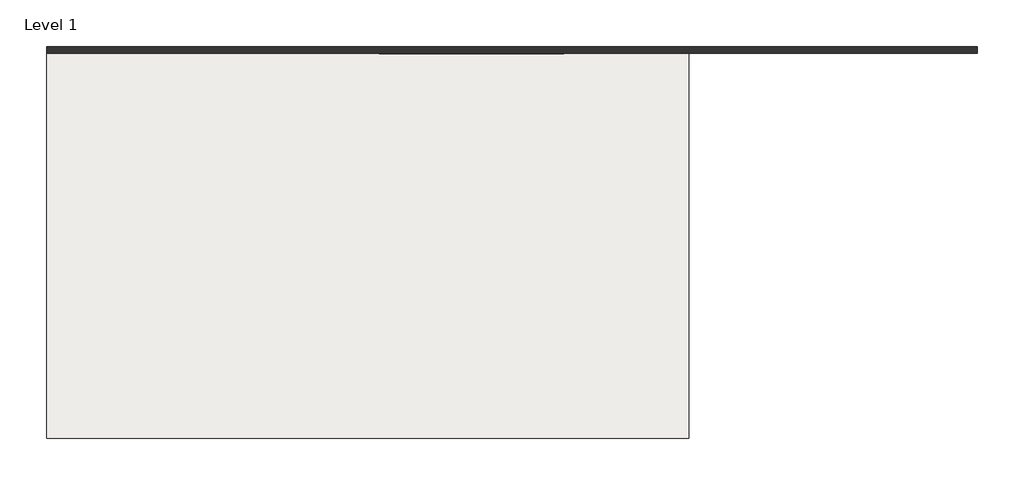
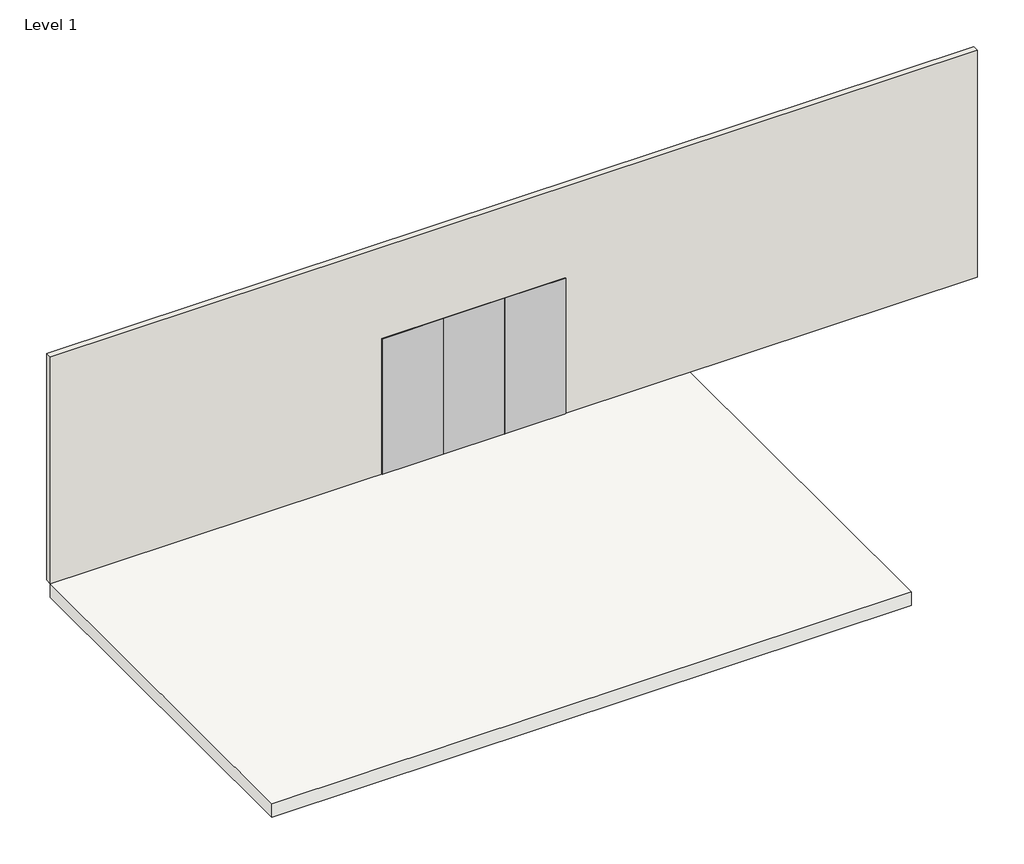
# One storey: 3 proxies, 1 slab, 1 wall.
"""IFC4 building model written with IfcOpenShell, lengths in millimetres."""

import ifcopenshell
import ifcopenshell.guid

model = None  # the IFC model being written
_history = None  # IfcOwnerHistory: only IFC2X3 demands one
_inside = {}  # id of a spatial element -> (the spatial element, [elements in it])
_under = {}  # id of a project, library or spatial element -> (it, [spatial elements below it])
_declared = {}  # id of a project -> (the project, [libraries it declares])
_typed = {}  # id of a type object -> (the type object, [elements of that type])
_made_of = {}  # id of a material, layer set ... -> (it, [elements and type objects made of it])


def new_model(schema):
    """Start an empty IFC model of exactly this schema.

    Asked for "IFC4X3", IfcOpenShell would pick the latest addendum, in which some entities
    have other attributes; the version numbers below select the first issue.
    IFC2X3 requires an IfcOwnerHistory on every rooted entity: one is made here for all.
    """
    global model, _history
    if schema == "IFC4X3":
        model = ifcopenshell.file(schema_version=(4, 3, 0, 0))
    else:
        model = ifcopenshell.file(schema=schema)
    _inside.clear()
    _under.clear()
    _declared.clear()
    _typed.clear()
    _made_of.clear()
    _history = None
    if model.schema == "IFC2X3":
        org = make("IfcOrganization", Name="unknown")
        user = make(
            "IfcPersonAndOrganization",
            ThePerson=make("IfcPerson", FamilyName="unknown"),
            TheOrganization=org,
        )
        app = make(
            "IfcApplication",
            ApplicationDeveloper=org,
            Version="unknown",
            ApplicationFullName="unknown",
            ApplicationIdentifier="unknown",
        )
        _history = make(
            "IfcOwnerHistory",
            OwningUser=user,
            OwningApplication=app,
            ChangeAction="ADDED",
            CreationDate=0,
        )
    return model


def make(cls, **values):
    """One entity of the class cls with the attributes given. An attribute that is None is left unset."""
    return model.create_entity(
        cls, **{name: value for name, value in values.items() if value is not None}
    )


def rooted(cls, **values):
    """An entity with a GlobalId (a new one), such as an element, a storey or a relation."""
    return make(cls, GlobalId=ifcopenshell.guid.new(), OwnerHistory=_history, **values)


def si_unit(unit_type, name, prefix=None):
    """IfcSIUnit, for example si_unit("LENGTHUNIT", "METRE", prefix="MILLI")."""
    return make("IfcSIUnit", UnitType=unit_type, Prefix=prefix, Name=name)


def assignment(units):
    """IfcUnitAssignment: the units of a project."""
    return None if units is None else make("IfcUnitAssignment", Units=units)


def point(xyz):
    """IfcCartesianPoint."""
    return None if xyz is None else make("IfcCartesianPoint", Coordinates=xyz)


def direction(xyz):
    """IfcDirection."""
    return None if xyz is None else make("IfcDirection", DirectionRatios=xyz)


def frame(location, z_axis=None, x_axis=None):
    """IfcAxis2Placement3D, a coordinate frame: its origin and axes. An axis left out is left unset."""
    return make(
        "IfcAxis2Placement3D",
        Location=point(location),
        Axis=direction(z_axis),
        RefDirection=direction(x_axis),
    )


def origin():
    """The frame at (0, 0, 0) with its axes left unset."""
    return frame((0.0, 0.0, 0.0))


def origin_with_axes():
    """The frame at (0, 0, 0) with the z axis (0, 0, 1) and the x axis (1, 0, 0) written out."""
    return frame((0.0, 0.0, 0.0), z_axis=(0.0, 0.0, 1.0), x_axis=(1.0, 0.0, 0.0))


def place(relative_to, where):
    """IfcLocalPlacement: puts the frame where relative to a parent placement (None: the world)."""
    return make(
        "IfcLocalPlacement", PlacementRelTo=relative_to, RelativePlacement=where
    )


def context(
    kind, dimensions, precision=None, world=None, true_north=None, identifier=None
):
    """IfcGeometricRepresentationContext, for example the 3D "Model" context."""
    return make(
        "IfcGeometricRepresentationContext",
        ContextIdentifier=identifier,
        ContextType=kind,
        CoordinateSpaceDimension=dimensions,
        Precision=precision,
        WorldCoordinateSystem=world,
        TrueNorth=true_north,
    )


def project(units=None, contexts=None):
    """IfcProject with its units and contexts."""
    return rooted(
        "IfcProject",
        Name="project",
        RepresentationContexts=contexts,
        UnitsInContext=assignment(units),
    )


def spatial(cls, under=None, at=None, **own):
    """A site, building, storey or space (cls), placed at a placement, below another one or the project."""
    s = rooted(cls, ObjectPlacement=at, **own)
    if under is not None:
        _under.setdefault(under.id(), (under, []))[1].append(s)
    return s


def polyline(points):
    """IfcPolyline through the points."""
    return make("IfcPolyline", Points=[point(p) for p in points])


def outline(outer, holes=None, kind="AREA"):
    """IfcArbitraryClosedProfileDef: a profile drawn as a closed curve; with holes, ...WithVoids."""
    if holes is None:
        return make("IfcArbitraryClosedProfileDef", ProfileType=kind, OuterCurve=outer)
    return make(
        "IfcArbitraryProfileDefWithVoids",
        ProfileType=kind,
        OuterCurve=outer,
        InnerCurves=holes,
    )


def extrude(swept, where, along, depth):
    """IfcExtrudedAreaSolid: the profile swept, set in the frame where, extruded along a direction by depth."""
    return make(
        "IfcExtrudedAreaSolid",
        SweptArea=swept,
        Position=where,
        ExtrudedDirection=direction(along),
        Depth=depth,
    )


def shape(context_of_items, identifier, shape_type, items):
    """IfcShapeRepresentation: the items that make up one representation, for example the "Body"."""
    return make(
        "IfcShapeRepresentation",
        ContextOfItems=context_of_items,
        RepresentationIdentifier=identifier,
        RepresentationType=shape_type,
        Items=items,
    )


def source(mapping_origin, context_of_items, identifier, shape_type, items):
    """IfcRepresentationMap: a shape defined once, which mapped items show again and again."""
    return make(
        "IfcRepresentationMap",
        MappingOrigin=mapping_origin,
        MappedRepresentation=shape(context_of_items, identifier, shape_type, items),
    )


def transform(
    local_origin,
    x_axis=None,
    y_axis=None,
    z_axis=None,
    scale=None,
    scale2=None,
    scale3=None,
    uniform=True,
):
    """IfcCartesianTransformationOperator3D, or its non-uniform kind. x_axis, y_axis, z_axis: its Axis1, 2, 3."""
    if uniform:
        return make(
            "IfcCartesianTransformationOperator3D",
            Axis1=direction(x_axis),
            Axis2=direction(y_axis),
            LocalOrigin=point(local_origin),
            Scale=scale,
            Axis3=direction(z_axis),
        )
    return make(
        "IfcCartesianTransformationOperator3DnonUniform",
        Axis1=direction(x_axis),
        Axis2=direction(y_axis),
        LocalOrigin=point(local_origin),
        Scale=scale,
        Axis3=direction(z_axis),
        Scale2=scale2,
        Scale3=scale3,
    )


def mapped(mapping_source, mapping_target):
    """IfcMappedItem: shows the shape of a source again, moved by a transform."""
    return make(
        "IfcMappedItem", MappingSource=mapping_source, MappingTarget=mapping_target
    )


def made_of(thing, what):
    """Note that an element or type object is made of a material, layer set ...; save() writes the relation."""
    if what is not None:
        _made_of.setdefault(what.id(), (what, []))[1].append(thing)
    return thing


def element(
    cls,
    number,
    at=None,
    inside=None,
    cuts=None,
    type_object=None,
    material=None,
    context=None,
    identifier="Body",
    shape_type=None,
    held_by="IfcProductDefinitionShape",
    body=None,
    shapes=None,
    **own,
):
    """One element of the class cls, such as IfcWall. Its Tag is "e" and its number.

    at: its placement. inside: the storey or other place that contains it. cuts: it is an
    opening in that element (IfcRelVoidsElement). A single representation is given by context,
    identifier, shape_type and body (its items); several are given by shapes. held_by: the class
    of the entity that holds the representations. save() writes the other relations.
    """
    e = rooted(cls, Tag="e%d" % number, ObjectPlacement=at, **own)
    if body is not None:
        shapes = [shape(context, identifier, shape_type, body)]
    if shapes is not None:
        e.Representation = make(held_by, Representations=shapes)
    if inside is not None:
        _inside.setdefault(inside.id(), (inside, []))[1].append(e)
    if cuts is not None:
        rooted(
            "IfcRelVoidsElement", RelatingBuildingElement=cuts, RelatedOpeningElement=e
        )
    if type_object is not None:
        _typed.setdefault(type_object.id(), (type_object, []))[1].append(e)
    return made_of(e, material)


def aggregate(whole, parts):
    """IfcRelAggregates: a whole, such as a stair, and the parts it consists of."""
    return rooted("IfcRelAggregates", RelatingObject=whole, RelatedObjects=parts)


def save(model, path):
    """Write the relations noted so far, then the file.

    IfcRelAggregates (storeys below a building ...), IfcRelContainedInSpatialStructure (elements
    in a storey), IfcRelDefinesByType, IfcRelAssociatesMaterial and IfcRelDeclares: one each for
    every whole, place, type object, material and project.
    """
    for whole, parts in _under.values():
        aggregate(whole, parts)
    for where, things in _inside.values():
        rooted(
            "IfcRelContainedInSpatialStructure",
            RelatedElements=things,
            RelatingStructure=where,
        )
    for kind, things in _typed.values():
        rooted("IfcRelDefinesByType", RelatedObjects=things, RelatingType=kind)
    for what, things in _made_of.values():
        rooted("IfcRelAssociatesMaterial", RelatedObjects=things, RelatingMaterial=what)
    for by, libraries in _declared.values():
        rooted("IfcRelDeclares", RelatingContext=by, RelatedDefinitions=libraries)
    model.write(path)


def specialty_equipment_f73d159b(model_context):
    return source(origin(), model_context, "Body", "SweptSolid", [
        extrude(outline(polyline([(558.8, 1371.6), (558.8, -1371.6), (-609.6, -1371.6), (-609.6, 1371.6), (558.8, 1371.6)])), origin_with_axes(), (0.0, 0.0, 1.0), 12.0054687),
    ])


def specialty_equipment_ca0f919e(model_context):
    return source(origin(), model_context, "Body", "SweptSolid", [
        extrude(outline(polyline([(558.8, -1371.6), (-609.6, -1371.6), (-609.6, 1371.6), (558.8, 1371.6), (558.8, -1371.6)])), origin_with_axes(), (0.0, 0.0, 1.0), 12.0054687),
    ])


model = new_model("IFC4")

# Units and contexts
model_context = context("Model", 3, world=origin())
ifc_project = project(units=[si_unit("LENGTHUNIT", "METRE", prefix="MILLI")], contexts=[model_context])

# Site, building, storey
site = spatial("IfcSite", under=ifc_project)
building = spatial("IfcBuilding", under=site)
storey = spatial("IfcBuildingStorey", under=building, Name="Level 1", Elevation=0.0)

# Proxies
placement = place(None, origin())
specialty_equipment_shape = specialty_equipment_f73d159b(model_context)
element("IfcBuildingElementProxy", 1, Name="Wall-Panel-Kirei-Groovy_Panels : Groovy 0.5", ObjectType="Wall-Panel-Kirei-Groovy_Panels : Groovy 0.5", at=placement, inside=storey, context=model_context, shape_type="MappedRepresentation", body=[
    mapped(specialty_equipment_shape, transform((-3767.0871015, 6040.5236992, 1365.25), x_axis=(1.0, 0.0, 0.0), y_axis=(0.0, 0.0, 1.0), z_axis=(0.0, -1.0, 0.0))),
])
element("IfcBuildingElementProxy", 2, Name="Wall-Panel-Kirei-Groovy_Panels : Groovy 1.0", ObjectType="Wall-Panel-Kirei-Groovy_Panels : Groovy 1.0", at=placement, inside=storey, context=model_context, shape_type="MappedRepresentation", body=[
    mapped(specialty_equipment_shape, transform((-2598.6871015, 6040.5236992, 1365.25), x_axis=(1.0, 0.0, 0.0), y_axis=(0.0, 0.0, 1.0), z_axis=(0.0, -1.0, 0.0))),
])
specialty_equipment_2_shape = specialty_equipment_ca0f919e(model_context)
element("IfcBuildingElementProxy", 3, Name="Wall-Panel-Kirei-Groovy_Panels : Groovy 3.0", ObjectType="Wall-Panel-Kirei-Groovy_Panels : Groovy 3.0", at=placement, inside=storey, context=model_context, shape_type="MappedRepresentation", body=[
    mapped(specialty_equipment_2_shape, transform((-1481.0871015, 6040.5236992, 1365.25), x_axis=(-1.0, 0.0, 0.0), y_axis=(0.0, 0.0, -1.0), z_axis=(0.0, -1.0, 0.0))),
])

# Slab
element("IfcSlab", 4, ObjectType="Wood Joist 10\" - Wood Finish", at=placement, inside=storey, context=model_context, shape_type="SweptSolid", body=[
    extrude(outline(polyline([(-10693.6472578, -1274.6763008), (-10693.6472578, 6040.5236992), (1498.3527422, 6040.5236992), (1498.3527422, -1274.6763008), (-10693.6472578, -1274.6763008)])), frame((0.0, 0.0, -273.05), z_axis=(0.0, 0.0, 1.0), x_axis=(1.0, 0.0, 0.0)), (0.0, 0.0, 1.0), 273.05),
])

# Wall
element("IfcWall", 5, ObjectType="Interior - 5\" Partition (2-hr)", at=placement, inside=storey, context=model_context, shape_type="SweptSolid", body=[
    extrude(outline(polyline([(6984.7527422, 6040.5236992), (-10693.6472578, 6040.5236992), (-10693.6472578, 6167.5236992), (6984.7527422, 6167.5236992), (6984.7527422, 6040.5236992)])), origin_with_axes(), (0.0, 0.0, 1.0), 4572.0),
])

save(model, "model.ifc")
